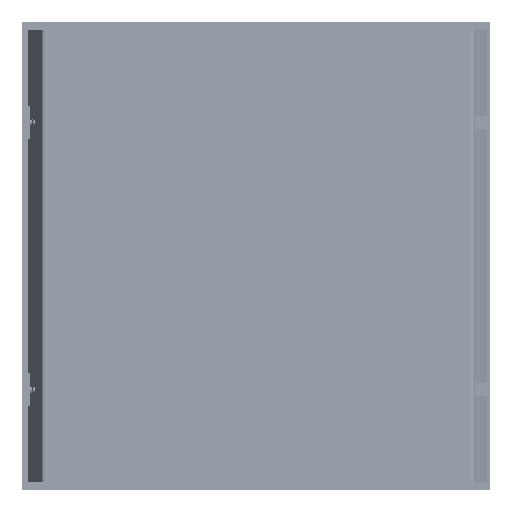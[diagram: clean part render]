
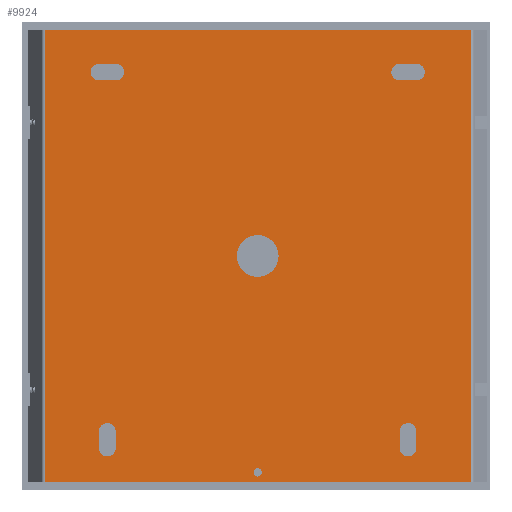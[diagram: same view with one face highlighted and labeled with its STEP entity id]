
A CAD part, top view. The second image highlights one B-rep face of the part: STEP entity #9924.
In plain terms, the highlighted planar face has unit normal (0, 0, 1) as drawn and (1, 0, 0) by its records, which use the part's own axes.
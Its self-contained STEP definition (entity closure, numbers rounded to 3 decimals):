
#9281=DIRECTION('',(0.,1.,0.));
#9282=VECTOR('',#9281,270.);
#9283=CARTESIAN_POINT('',(35.,-135.,-127.5));
#9284=LINE('',#9283,#9282);
#9285=DIRECTION('',(0.,0.,1.));
#9286=VECTOR('',#9285,255.);
#9287=CARTESIAN_POINT('',(35.,-135.,-127.5));
#9288=LINE('',#9287,#9286);
#9289=DIRECTION('',(0.,1.,0.));
#9290=VECTOR('',#9289,270.);
#9291=CARTESIAN_POINT('',(35.,-135.,127.5));
#9292=LINE('',#9291,#9290);
#9293=CARTESIAN_POINT('',(35.,0.,0.));
#9294=DIRECTION('',(1.,0.,0.));
#9295=DIRECTION('',(0.,0.,-1.));
#9296=AXIS2_PLACEMENT_3D('',#9293,#9294,#9295);
#9298=CARTESIAN_POINT('',(35.,0.,0.));
#9299=DIRECTION('',(1.,0.,0.));
#9300=DIRECTION('',(0.,0.,1.));
#9301=AXIS2_PLACEMENT_3D('',#9298,#9299,#9300);
#9303=CARTESIAN_POINT('',(35.,-115.,90.));
#9304=DIRECTION('',(1.,0.,0.));
#9305=DIRECTION('',(0.,0.,1.));
#9306=AXIS2_PLACEMENT_3D('',#9303,#9304,#9305);
#9308=DIRECTION('',(0.,-1.,0.));
#9309=VECTOR('',#9308,10.);
#9310=CARTESIAN_POINT('',(35.,-105.,85.));
#9311=LINE('',#9310,#9309);
#9312=CARTESIAN_POINT('',(35.,-105.,90.));
#9313=DIRECTION('',(1.,0.,0.));
#9314=DIRECTION('',(0.,0.,-1.));
#9315=AXIS2_PLACEMENT_3D('',#9312,#9313,#9314);
#9317=DIRECTION('',(0.,1.,0.));
#9318=VECTOR('',#9317,10.);
#9319=CARTESIAN_POINT('',(35.,-115.,95.));
#9320=LINE('',#9319,#9318);
#9321=CARTESIAN_POINT('',(35.,-115.,-90.));
#9322=DIRECTION('',(1.,0.,0.));
#9323=DIRECTION('',(0.,0.,1.));
#9324=AXIS2_PLACEMENT_3D('',#9321,#9322,#9323);
#9326=DIRECTION('',(0.,-1.,0.));
#9327=VECTOR('',#9326,10.);
#9328=CARTESIAN_POINT('',(35.,-105.,-95.));
#9329=LINE('',#9328,#9327);
#9330=CARTESIAN_POINT('',(35.,-105.,-90.));
#9331=DIRECTION('',(1.,0.,0.));
#9332=DIRECTION('',(0.,0.,-1.));
#9333=AXIS2_PLACEMENT_3D('',#9330,#9331,#9332);
#9335=DIRECTION('',(0.,1.,0.));
#9336=VECTOR('',#9335,10.);
#9337=CARTESIAN_POINT('',(35.,-115.,-85.));
#9338=LINE('',#9337,#9336);
#9339=DIRECTION('',(0.,0.,1.));
#9340=VECTOR('',#9339,10.);
#9341=CARTESIAN_POINT('',(35.,105.,-95.));
#9342=LINE('',#9341,#9340);
#9343=CARTESIAN_POINT('',(35.,110.,-95.));
#9344=DIRECTION('',(1.,0.,0.));
#9345=DIRECTION('',(0.,-1.,0.));
#9346=AXIS2_PLACEMENT_3D('',#9343,#9344,#9345);
#9348=DIRECTION('',(0.,0.,-1.));
#9349=VECTOR('',#9348,10.);
#9350=CARTESIAN_POINT('',(35.,115.,-85.));
#9351=LINE('',#9350,#9349);
#9352=CARTESIAN_POINT('',(35.,110.,-85.));
#9353=DIRECTION('',(1.,0.,0.));
#9354=DIRECTION('',(0.,1.,0.));
#9355=AXIS2_PLACEMENT_3D('',#9352,#9353,#9354);
#9357=DIRECTION('',(0.,0.,1.));
#9358=VECTOR('',#9357,10.);
#9359=CARTESIAN_POINT('',(35.,105.,85.));
#9360=LINE('',#9359,#9358);
#9361=CARTESIAN_POINT('',(35.,110.,85.));
#9362=DIRECTION('',(1.,0.,0.));
#9363=DIRECTION('',(0.,-1.,0.));
#9364=AXIS2_PLACEMENT_3D('',#9361,#9362,#9363);
#9366=DIRECTION('',(0.,0.,-1.));
#9367=VECTOR('',#9366,10.);
#9368=CARTESIAN_POINT('',(35.,115.,95.));
#9369=LINE('',#9368,#9367);
#9370=CARTESIAN_POINT('',(35.,110.,95.));
#9371=DIRECTION('',(1.,0.,0.));
#9372=DIRECTION('',(0.,1.,0.));
#9373=AXIS2_PLACEMENT_3D('',#9370,#9371,#9372);
#9375=CARTESIAN_POINT('',(35.,-129.5,0.));
#9376=DIRECTION('',(1.,0.,0.));
#9377=DIRECTION('',(0.,0.,-1.));
#9378=AXIS2_PLACEMENT_3D('',#9375,#9376,#9377);
#9380=CARTESIAN_POINT('',(35.,-129.5,0.));
#9381=DIRECTION('',(1.,0.,0.));
#9382=DIRECTION('',(0.,0.,1.));
#9383=AXIS2_PLACEMENT_3D('',#9380,#9381,#9382);
#9424=DIRECTION('',(0.,0.,1.));
#9425=VECTOR('',#9424,255.);
#9426=CARTESIAN_POINT('',(35.,135.,-127.5));
#9427=LINE('',#9426,#9425);
#9755=CARTESIAN_POINT('',(35.,135.,127.5));
#9756=VERTEX_POINT('',#9755);
#9757=CARTESIAN_POINT('',(35.,-135.,127.5));
#9758=VERTEX_POINT('',#9757);
#9761=CARTESIAN_POINT('',(35.,-135.,-127.5));
#9762=VERTEX_POINT('',#9761);
#9763=CARTESIAN_POINT('',(35.,135.,-127.5));
#9764=VERTEX_POINT('',#9763);
#9777=CARTESIAN_POINT('',(35.,0.,-12.5));
#9778=CARTESIAN_POINT('',(35.,0.,12.5));
#9779=VERTEX_POINT('',#9777);
#9780=VERTEX_POINT('',#9778);
#9785=CARTESIAN_POINT('',(35.,-115.,95.));
#9786=CARTESIAN_POINT('',(35.,-115.,85.));
#9787=VERTEX_POINT('',#9785);
#9788=VERTEX_POINT('',#9786);
#9789=CARTESIAN_POINT('',(35.,-105.,95.));
#9790=VERTEX_POINT('',#9789);
#9791=CARTESIAN_POINT('',(35.,-105.,85.));
#9792=VERTEX_POINT('',#9791);
#9793=CARTESIAN_POINT('',(35.,-115.,-85.));
#9794=CARTESIAN_POINT('',(35.,-115.,-95.));
#9795=VERTEX_POINT('',#9793);
#9796=VERTEX_POINT('',#9794);
#9797=CARTESIAN_POINT('',(35.,-105.,-85.));
#9798=VERTEX_POINT('',#9797);
#9799=CARTESIAN_POINT('',(35.,-105.,-95.));
#9800=VERTEX_POINT('',#9799);
#9801=CARTESIAN_POINT('',(35.,105.,-95.));
#9802=CARTESIAN_POINT('',(35.,105.,-85.));
#9803=VERTEX_POINT('',#9801);
#9804=VERTEX_POINT('',#9802);
#9805=CARTESIAN_POINT('',(35.,115.,-85.));
#9806=VERTEX_POINT('',#9805);
#9807=CARTESIAN_POINT('',(35.,115.,-95.));
#9808=VERTEX_POINT('',#9807);
#9809=CARTESIAN_POINT('',(35.,105.,85.));
#9810=CARTESIAN_POINT('',(35.,105.,95.));
#9811=VERTEX_POINT('',#9809);
#9812=VERTEX_POINT('',#9810);
#9813=CARTESIAN_POINT('',(35.,115.,95.));
#9814=VERTEX_POINT('',#9813);
#9815=CARTESIAN_POINT('',(35.,115.,85.));
#9816=VERTEX_POINT('',#9815);
#9849=CARTESIAN_POINT('',(35.,-129.5,-2.5));
#9850=CARTESIAN_POINT('',(35.,-129.5,2.5));
#9851=VERTEX_POINT('',#9849);
#9852=VERTEX_POINT('',#9850);
#9857=CARTESIAN_POINT('',(35.,-135.,-145.));
#9858=DIRECTION('',(1.,0.,0.));
#9859=DIRECTION('',(0.,1.,0.));
#9860=AXIS2_PLACEMENT_3D('',#9857,#9858,#9859);
#9861=PLANE('',#9860);
#9863=ORIENTED_EDGE('',*,*,#9862,.F.);
#9865=ORIENTED_EDGE('',*,*,#9864,.T.);
#9867=ORIENTED_EDGE('',*,*,#9866,.T.);
#9869=ORIENTED_EDGE('',*,*,#9868,.F.);
#9870=EDGE_LOOP('',(#9863,#9865,#9867,#9869));
#9871=FACE_OUTER_BOUND('',#9870,.F.);
#9873=ORIENTED_EDGE('',*,*,#9872,.T.);
#9875=ORIENTED_EDGE('',*,*,#9874,.T.);
#9876=EDGE_LOOP('',(#9873,#9875));
#9877=FACE_BOUND('',#9876,.F.);
#9879=ORIENTED_EDGE('',*,*,#9878,.T.);
#9881=ORIENTED_EDGE('',*,*,#9880,.F.);
#9883=ORIENTED_EDGE('',*,*,#9882,.T.);
#9885=ORIENTED_EDGE('',*,*,#9884,.F.);
#9886=EDGE_LOOP('',(#9879,#9881,#9883,#9885));
#9887=FACE_BOUND('',#9886,.F.);
#9889=ORIENTED_EDGE('',*,*,#9888,.T.);
#9891=ORIENTED_EDGE('',*,*,#9890,.F.);
#9893=ORIENTED_EDGE('',*,*,#9892,.T.);
#9895=ORIENTED_EDGE('',*,*,#9894,.F.);
#9896=EDGE_LOOP('',(#9889,#9891,#9893,#9895));
#9897=FACE_BOUND('',#9896,.F.);
#9899=ORIENTED_EDGE('',*,*,#9898,.F.);
#9901=ORIENTED_EDGE('',*,*,#9900,.T.);
#9903=ORIENTED_EDGE('',*,*,#9902,.F.);
#9905=ORIENTED_EDGE('',*,*,#9904,.T.);
#9906=EDGE_LOOP('',(#9899,#9901,#9903,#9905));
#9907=FACE_BOUND('',#9906,.F.);
#9909=ORIENTED_EDGE('',*,*,#9908,.F.);
#9911=ORIENTED_EDGE('',*,*,#9910,.T.);
#9913=ORIENTED_EDGE('',*,*,#9912,.F.);
#9915=ORIENTED_EDGE('',*,*,#9914,.T.);
#9916=EDGE_LOOP('',(#9909,#9911,#9913,#9915));
#9917=FACE_BOUND('',#9916,.F.);
#9919=ORIENTED_EDGE('',*,*,#9918,.T.);
#9921=ORIENTED_EDGE('',*,*,#9920,.T.);
#9922=EDGE_LOOP('',(#9919,#9921));
#9923=FACE_BOUND('',#9922,.F.);
#9924=ADVANCED_FACE('',(#9871,#9877,#9887,#9897,#9907,#9917,#9923),#9861,.T.);
#9297=CIRCLE('',#9296,12.5);
#9302=CIRCLE('',#9301,12.5);
#9307=CIRCLE('',#9306,5.);
#9316=CIRCLE('',#9315,5.);
#9325=CIRCLE('',#9324,5.);
#9334=CIRCLE('',#9333,5.);
#9347=CIRCLE('',#9346,5.);
#9356=CIRCLE('',#9355,5.);
#9365=CIRCLE('',#9364,5.);
#9374=CIRCLE('',#9373,5.);
#9379=CIRCLE('',#9378,2.5);
#9384=CIRCLE('',#9383,2.5);
#9862=EDGE_CURVE('',#9762,#9764,#9284,.T.);
#9864=EDGE_CURVE('',#9762,#9758,#9288,.T.);
#9866=EDGE_CURVE('',#9758,#9756,#9292,.T.);
#9868=EDGE_CURVE('',#9764,#9756,#9427,.T.);
#9872=EDGE_CURVE('',#9779,#9780,#9297,.T.);
#9874=EDGE_CURVE('',#9780,#9779,#9302,.T.);
#9878=EDGE_CURVE('',#9787,#9788,#9307,.T.);
#9880=EDGE_CURVE('',#9792,#9788,#9311,.T.);
#9882=EDGE_CURVE('',#9792,#9790,#9316,.T.);
#9884=EDGE_CURVE('',#9787,#9790,#9320,.T.);
#9888=EDGE_CURVE('',#9795,#9796,#9325,.T.);
#9890=EDGE_CURVE('',#9800,#9796,#9329,.T.);
#9892=EDGE_CURVE('',#9800,#9798,#9334,.T.);
#9894=EDGE_CURVE('',#9795,#9798,#9338,.T.);
#9898=EDGE_CURVE('',#9803,#9804,#9342,.T.);
#9900=EDGE_CURVE('',#9803,#9808,#9347,.T.);
#9902=EDGE_CURVE('',#9806,#9808,#9351,.T.);
#9904=EDGE_CURVE('',#9806,#9804,#9356,.T.);
#9908=EDGE_CURVE('',#9811,#9812,#9360,.T.);
#9910=EDGE_CURVE('',#9811,#9816,#9365,.T.);
#9912=EDGE_CURVE('',#9814,#9816,#9369,.T.);
#9914=EDGE_CURVE('',#9814,#9812,#9374,.T.);
#9918=EDGE_CURVE('',#9851,#9852,#9379,.T.);
#9920=EDGE_CURVE('',#9852,#9851,#9384,.T.);
